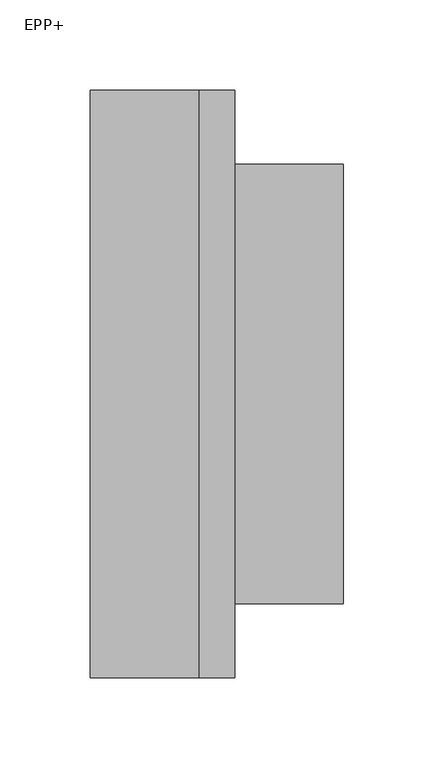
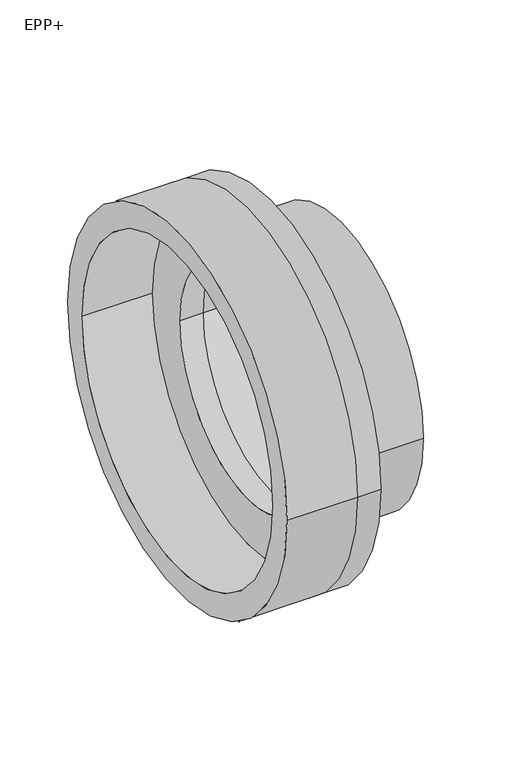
"""IFC4 building model written with IfcOpenShell, lengths in millimetres: duct fitting geometry, NLRS_57_DUF_UN_sleeve joint EPP+_M&G : EPP+."""

from ifc_helpers import new_model, si_unit, frame, origin, place, context, project, spatial, polyline, circle_curve, source, transform, mapped, element, save
from ifc_brep_helpers import plane_surface, cylinder_surface, revolved_surface, advanced_brep


def epp_3ac571b2(model_context):
    return source(origin(), model_context, "Body", "AdvancedBrep", [
        advanced_brep(
        [(-80.0, -162.5, 0.0), (-80.0, 162.5, 0.0), (-80.0, -141.0, 0.0), (-80.0, 141.0, 0.0), (-20.0, -162.5, 0.0), (-20.0, 162.5, 0.0), (-20.0, -141.0, 0.0), (-20.0, 141.0, 0.0), (-20.0, -100.0, 0.0), (-20.0, 100.0, 0.0), (0.0, -162.5, 0.0), (0.0, 162.5, 0.0), (0.0, -121.5, 0.0), (0.0, 121.5, 0.0), (60.0, -121.5, 0.0), (60.0, 121.5, 0.0), (60.0, -100.0, 0.0), (60.0, 100.0, 0.0), (0.0, 100.0, 0.0), (0.0, -100.0, 0.0)],
        [
            (0, 1, circle_curve(frame((-80.0, 0.0, 0.0), z_axis=(-1.0, 0.0, 0.0), x_axis=(0.0, 1.0, 0.0)), 162.5)),
            (1, 0, circle_curve(frame((-80.0, 0.0, 0.0), z_axis=(-1.0, 0.0, 0.0), x_axis=(0.0, 1.0, 0.0)), 162.5)),
            (2, 3, circle_curve(frame((-80.0, 0.0, 0.0), z_axis=(1.0, 0.0, 0.0), x_axis=(0.0, 1.0, 0.0)), 141.0)),
            (3, 2, circle_curve(frame((-80.0, 0.0, 0.0), z_axis=(1.0, 0.0, 0.0), x_axis=(0.0, 1.0, 0.0)), 141.0)),
            (0, 4),
            (4, 5, circle_curve(frame((-20.0, 0.0, 0.0), z_axis=(-1.0, 0.0, 0.0), x_axis=(0.0, 1.0, 0.0)), 162.5)),
            (5, 1),
            (5, 4, circle_curve(frame((-20.0, 0.0, 0.0), z_axis=(-1.0, 0.0, 0.0), x_axis=(0.0, 1.0, 0.0)), 162.5)),
            (2, 6),
            (6, 7, circle_curve(frame((-20.0, 0.0, 0.0), z_axis=(1.0, 0.0, 0.0), x_axis=(0.0, 1.0, 0.0)), 141.0)),
            (7, 3),
            (7, 6, circle_curve(frame((-20.0, 0.0, 0.0), z_axis=(1.0, 0.0, 0.0), x_axis=(0.0, 1.0, 0.0)), 141.0)),
            (8, 9, circle_curve(frame((-20.0, 0.0, 0.0), z_axis=(1.0, 0.0, 0.0), x_axis=(0.0, 1.0, 0.0)), 100.0)),
            (9, 8, circle_curve(frame((-20.0, 0.0, 0.0), z_axis=(1.0, 0.0, 0.0), x_axis=(0.0, 1.0, 0.0)), 100.0)),
            (10, 11, circle_curve(frame((0.0, 0.0, 0.0), z_axis=(1.0, 0.0, 0.0), x_axis=(0.0, 1.0, 0.0)), 162.5)),
            (11, 10, circle_curve(frame((0.0, 0.0, 0.0), z_axis=(1.0, 0.0, 0.0), x_axis=(0.0, 1.0, 0.0)), 162.5)),
            (12, 13, circle_curve(frame((0.0, 0.0, 0.0), z_axis=(-1.0, 0.0, 0.0), x_axis=(0.0, 1.0, 0.0)), 121.5)),
            (13, 12, circle_curve(frame((0.0, 0.0, 0.0), z_axis=(-1.0, 0.0, 0.0), x_axis=(0.0, 1.0, 0.0)), 121.5)),
            (11, 5),
            (4, 10),
            (14, 15, circle_curve(frame((60.0, 0.0, 0.0), z_axis=(1.0, 0.0, 0.0), x_axis=(0.0, 1.0, 0.0)), 121.5)),
            (15, 14, circle_curve(frame((60.0, 0.0, 0.0), z_axis=(1.0, 0.0, 0.0), x_axis=(0.0, 1.0, 0.0)), 121.5)),
            (16, 17, circle_curve(frame((60.0, 0.0, 0.0), z_axis=(-1.0, 0.0, 0.0), x_axis=(0.0, 1.0, 0.0)), 100.0)),
            (17, 16, circle_curve(frame((60.0, 0.0, 0.0), z_axis=(-1.0, 0.0, 0.0), x_axis=(0.0, 1.0, 0.0)), 100.0)),
            (15, 13),
            (12, 14),
            (17, 18),
            (18, 19, circle_curve(frame((0.0, 0.0, 0.0), z_axis=(-1.0, 0.0, 0.0), x_axis=(0.0, 1.0, 0.0)), 100.0)),
            (19, 16),
            (19, 18, circle_curve(frame((0.0, 0.0, 0.0), z_axis=(-1.0, 0.0, 0.0), x_axis=(0.0, 1.0, 0.0)), 100.0)),
            (8, 19),
            (18, 9),
        ],
        [
            plane_surface(frame((-80.0, 0.0, 0.0), z_axis=(-1.0, 0.0, 0.0), x_axis=(0.0, 0.0, 1.0))),
            cylinder_surface(frame((-80.0, 0.0, 0.0), z_axis=(-1.0, 0.0, 0.0), x_axis=(0.0, 1.0, 0.0)), 162.5),
            revolved_surface(polyline([(-20.0, 141.0, 0.0), (-80.0, 141.0, 0.0)]), (-80.0, 0.0, 0.0), (1.0, 0.0, 0.0)),
            plane_surface(frame((-20.0, 0.0, 0.0), z_axis=(-1.0, 0.0, 0.0), x_axis=(0.0, 0.0, 1.0))),
            plane_surface(frame((0.0, 0.0, 0.0), z_axis=(1.0, 0.0, 0.0), x_axis=(0.0, 0.0, 1.0))),
            cylinder_surface(frame((-20.0, 0.0, 0.0), z_axis=(-1.0, 0.0, 0.0), x_axis=(0.0, 1.0, 0.0)), 162.5),
            plane_surface(frame((60.0, 0.0, 0.0), z_axis=(1.0, 0.0, 0.0), x_axis=(0.0, 0.0, 1.0))),
            cylinder_surface(frame((0.0, 0.0, 0.0), z_axis=(-1.0, 0.0, 0.0), x_axis=(0.0, 1.0, 0.0)), 121.5),
            revolved_surface(polyline([(60.0, 100.0, 0.0), (0.0, 100.0, 0.0)]), (0.0, 0.0, 0.0), (1.0, 0.0, 0.0)),
            revolved_surface(polyline([(0.0, 100.0, 0.0), (-20.0, 100.0, 0.0)]), (-20.0, 0.0, 0.0), (1.0, 0.0, 0.0)),
        ],
        [
            (0, [[1, 2], [3, 4]]),
            (1, [[-1, 5, 6, 7]]),
            (1, [[-2, -7, 8, -5]]),
            (2, [[-3, 9, 10, 11]]),
            (2, [[-4, -11, 12, -9]]),
            (3, [[-10, -12], [13, 14]]),
            (4, [[15, 16], [17, 18]]),
            (5, [[-16, 19, -6, 20]]),
            (5, [[-15, -20, -8, -19]]),
            (6, [[21, 22], [23, 24]]),
            (7, [[-22, 25, -17, 26]]),
            (7, [[-21, -26, -18, -25]]),
            (8, [[-24, 27, 28, 29]]),
            (8, [[-23, -29, 30, -27]]),
            (9, [[-13, 31, -28, 32]]),
            (9, [[-14, -32, -30, -31]]),
        ],
    ),
    ])


if __name__ == "__main__":
    model = new_model("IFC4")
    model_context = context("Model", 3, world=origin())
    ifc_project = project(units=[si_unit("LENGTHUNIT", "METRE", prefix="MILLI")], contexts=[model_context])
    site = spatial("IfcSite", under=ifc_project)
    building = spatial("IfcBuilding", under=site)
    placement = place(None, origin())
    epp_shape = epp_3ac571b2(model_context)
    element("IfcDuctFitting", 1, ObjectType="NLRS_57_DUF_UN_sleeve joint EPP+_M&G : EPP+", at=placement, inside=building, context=model_context, shape_type="MappedRepresentation", body=[
        mapped(epp_shape, transform((0.0, 0.0, 0.0), x_axis=(1.0, 0.0, 0.0), y_axis=(0.0, 1.0, 0.0), z_axis=(0.0, 0.0, 1.0))),
    ])
    save(model, "model.ifc")
